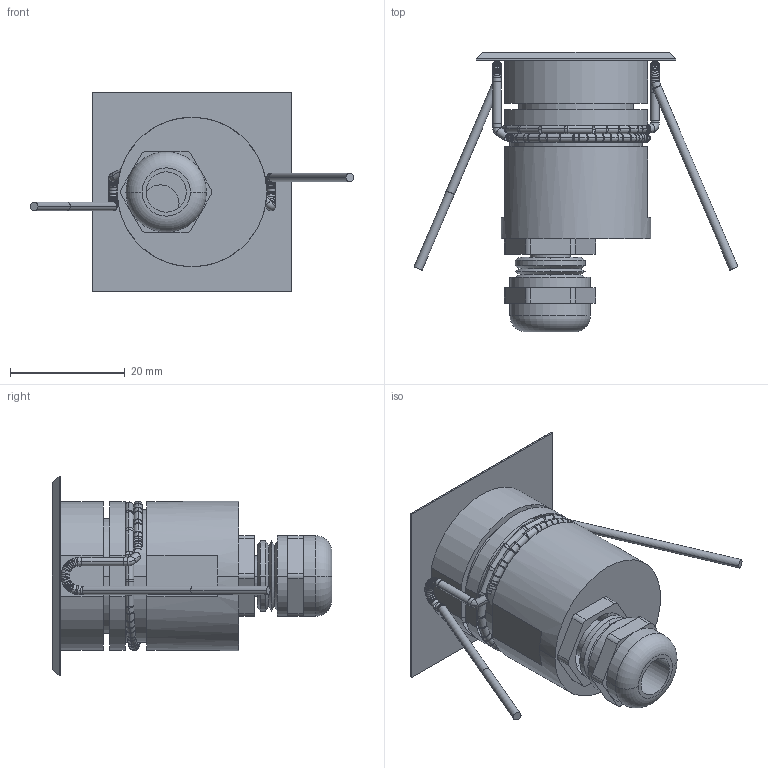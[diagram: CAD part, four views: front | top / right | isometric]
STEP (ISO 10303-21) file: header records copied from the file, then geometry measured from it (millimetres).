
FILE_DESCRIPTION((''),'2;1');
FILE_NAME('CNC35-Q_SW0002','2025-07-30T16:29:19',('Piccioli'),(''),'CREO PARAMETRIC BY PTC INC, 2025010','CREO PARAMETRIC BY PTC INC, 2025010','');
FILE_SCHEMA(('CONFIG_CONTROL_DESIGN'));
Length unit declared in the file: millimetre
Products named in the file (1): CNC35-Q_SW0002
Bounding box: 56.38 x 48.7 x 34.8 mm (x, y, z)
Surface area: 8850.1 mm2 (no closed solid volume)
Topology: 0 solids, 58 shells, 381 faces, 1064 edges, 664 vertices
Faces by surface type: cylinder 238, torus 76, plane 43, bspline 14, cone 10
Entity records: 12468 total; most frequent: CARTESIAN_POINT 2584, DIRECTION 2474, ORIENTED_EDGE 1639, AXIS2_PLACEMENT_3D 1063, EDGE_CURVE 1057, CIRCLE 696, VERTEX_POINT 664, EDGE_LOOP 392
